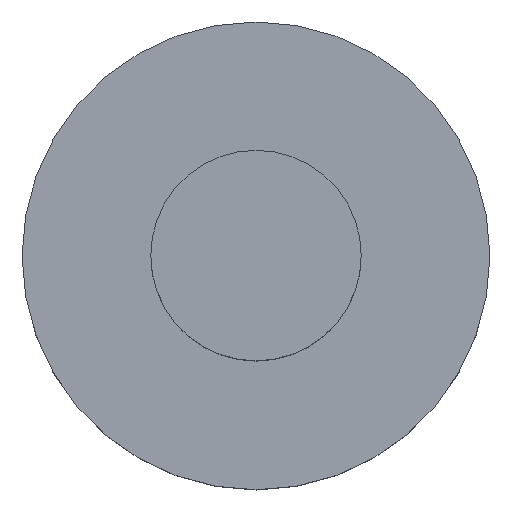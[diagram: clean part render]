
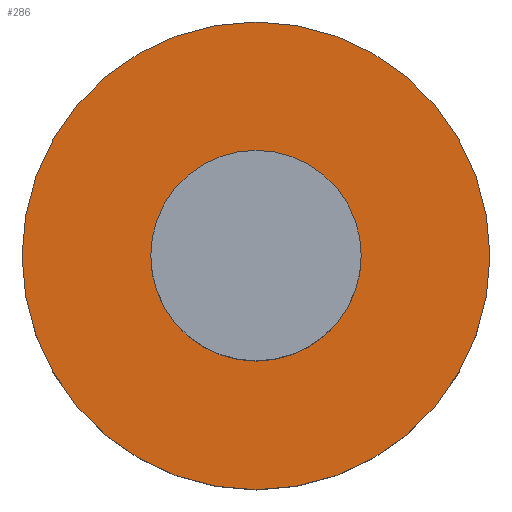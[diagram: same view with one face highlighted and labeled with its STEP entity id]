
A CAD part, top view. The second image highlights one B-rep face of the part: STEP entity #286.
In plain terms, the highlighted planar face has unit normal (0, 0, 1).
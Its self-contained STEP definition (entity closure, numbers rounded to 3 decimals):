
#29=CARTESIAN_POINT('',(0.,83.94,-102.84));
#30=DIRECTION('',(0.,0.,1.));
#31=DIRECTION('',(0.,1.,0.));
#32=AXIS2_PLACEMENT_3D('',#29,#30,#31);
#34=CARTESIAN_POINT('',(0.,83.94,-102.84));
#35=DIRECTION('',(0.,0.,-1.));
#36=DIRECTION('',(0.,1.,0.));
#37=AXIS2_PLACEMENT_3D('',#34,#35,#36);
#39=CARTESIAN_POINT('',(0.,83.94,-102.84));
#40=DIRECTION('',(0.,0.,-1.));
#41=DIRECTION('',(0.,1.,0.));
#42=AXIS2_PLACEMENT_3D('',#39,#40,#41);
#52=CARTESIAN_POINT('',(0.,83.94,-102.84));
#53=DIRECTION('',(0.,0.,1.));
#54=DIRECTION('',(0.,1.,0.));
#55=AXIS2_PLACEMENT_3D('',#52,#53,#54);
#180=CARTESIAN_POINT('',(0.,84.94,-102.84));
#182=VERTEX_POINT('',#180);
#183=CARTESIAN_POINT('',(0.,84.39,-102.84));
#185=VERTEX_POINT('',#183);
#204=CARTESIAN_POINT('',(0.,82.94,-102.84));
#206=VERTEX_POINT('',#204);
#207=CARTESIAN_POINT('',(0.,83.49,-102.84));
#209=VERTEX_POINT('',#207);
#271=CARTESIAN_POINT('',(0.,83.94,-102.84));
#272=DIRECTION('',(0.,0.,-1.));
#273=DIRECTION('',(0.,-1.,0.));
#274=AXIS2_PLACEMENT_3D('',#271,#272,#273);
#275=PLANE('',#274);
#276=ORIENTED_EDGE('',*,*,#264,.F.);
#277=ORIENTED_EDGE('',*,*,#253,.T.);
#278=EDGE_LOOP('',(#276,#277));
#279=FACE_OUTER_BOUND('',#278,.F.);
#281=ORIENTED_EDGE('',*,*,#280,.F.);
#283=ORIENTED_EDGE('',*,*,#282,.T.);
#284=EDGE_LOOP('',(#281,#283));
#285=FACE_BOUND('',#284,.F.);
#286=ADVANCED_FACE('',(#279,#285),#275,.F.);
#33=CIRCLE('',#32,1.);
#38=CIRCLE('',#37,1.);
#43=CIRCLE('',#42,0.45);
#56=CIRCLE('',#55,0.45);
#253=EDGE_CURVE('',#182,#206,#38,.T.);
#264=EDGE_CURVE('',#182,#206,#33,.T.);
#280=EDGE_CURVE('',#185,#209,#43,.T.);
#282=EDGE_CURVE('',#185,#209,#56,.T.);
